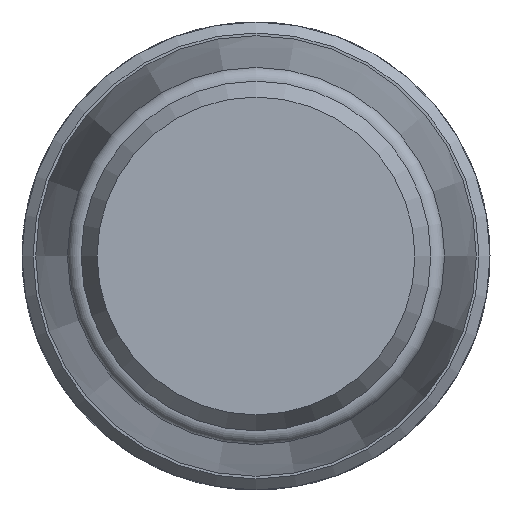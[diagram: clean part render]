
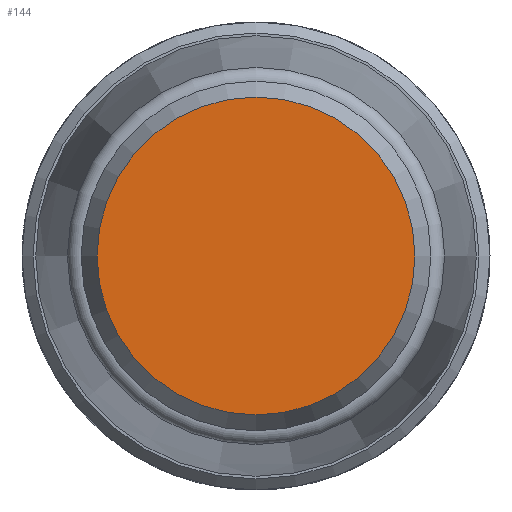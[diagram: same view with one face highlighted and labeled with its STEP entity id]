
A CAD part, left-side view. The second image highlights one B-rep face of the part: STEP entity #144.
In plain terms, the highlighted planar face has unit normal (-1, 0, 0).
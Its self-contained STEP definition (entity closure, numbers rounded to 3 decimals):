
#124=CARTESIAN_POINT('',(-15.15,2.886,0.0));
#125=VERTEX_POINT('',#124);
#126=CARTESIAN_POINT('',(-15.15,0.,0.0));
#127=DIRECTION('',(1.0,0.0,0.0));
#128=DIRECTION('',(0.0,1.0,0.0));
#129=AXIS2_PLACEMENT_3D('',#126,#127,#128);
#130=CIRCLE('',#129,2.886);
#131=EDGE_CURVE('',#125,#125,#130,.T.);
#136=CARTESIAN_POINT('',(-15.15,2.493,0.0));
#137=DIRECTION('',(-1.0,0.0,0.0));
#138=DIRECTION('',(0.0,0.0,1.0));
#139=AXIS2_PLACEMENT_3D('',#136,#137,#138);
#140=PLANE('',#139);
#141=ORIENTED_EDGE('',*,*,#131,.F.);
#142=EDGE_LOOP('',(#141));
#143=FACE_OUTER_BOUND('',#142,.T.);
#144=ADVANCED_FACE('',(#143),#140,.T.);
